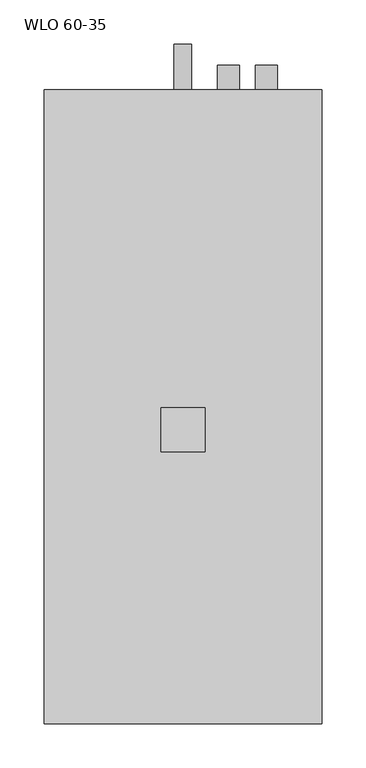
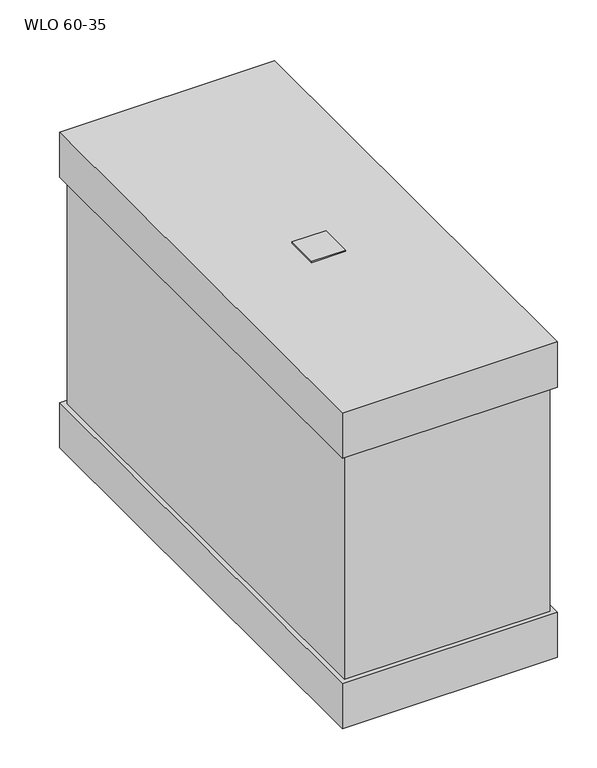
"""IFC4 building model written with IfcOpenShell, lengths in millimetres: proxy geometry, KORF_Воздухоохладитель_Водяной_WLO_Правый : WLO 60-35."""

from ifc_helpers import new_model, si_unit, point, frame, frame_2d, origin, place, context, project, spatial, polyline, circle_curve, trimmed, segment, composite_curve, outline, extrude, faceted_brep, source, transform, mapped, element, save


def wlo_60_35_79592b4e(model_context):
    return source(origin(), model_context, "Body", "SolidModel", [
        extrude(outline(polyline([(133.0, -25.0), (133.0, 25.0), (183.0, 25.0), (183.0, -25.0), (133.0, -25.0)])), frame((0.0, 0.0, 245.0), z_axis=(0.0, 0.0, 1.0), x_axis=(1.0, 0.0, 0.0)), (0.0, 0.0, 1.0), 2.0),
        faceted_brep([(316.0, -334.0, 245.0), (316.0, -334.0, 175.0), (316.0, 386.0, 175.0), (316.0, 386.0, 245.0), (316.0, -334.0, -175.0), (316.0, -334.0, -245.0), (316.0, 386.0, -245.0), (316.0, 386.0, -175.0), (0.0, -334.0, 245.0), (0.0, 386.0, 245.0), (0.0, 386.0, 175.0), (0.0, -334.0, 175.0), (0.0, -334.0, -175.0), (0.0, 386.0, -175.0), (0.0, 386.0, -245.0), (0.0, -334.0, -245.0), (7.0, -327.0, 175.0), (309.0, -327.0, 175.0), (309.0, -300.0, 175.0), (309.0, 300.0, 175.0), (309.0, 379.0, 175.0), (7.0, 379.0, 175.0), (7.0, 300.0, 175.0), (7.0, -300.0, 175.0), (309.0, -327.0, -175.0), (7.0, -327.0, -175.0), (7.0, -300.0, -175.0), (7.0, 300.0, -175.0), (7.0, 379.0, -175.0), (309.0, 379.0, -175.0), (309.0, 300.0, -175.0), (309.0, -300.0, -175.0)], [[[0, 1, 2, 3]], [[4, 5, 6, 7]], [[8, 9, 10, 11]], [[12, 13, 14, 15]], [[1, 0, 8, 11]], [[2, 1, 11, 10], [16, 17, 18, 19, 20, 21, 22, 23]], [[3, 2, 10, 9]], [[0, 3, 9, 8]], [[5, 4, 12, 15]], [[6, 5, 15, 14]], [[7, 6, 14, 13]], [[4, 7, 13, 12], [24, 25, 26, 27, 28, 29, 30, 31]], [[17, 24, 31, 30, 29, 20, 19, 18]], [[21, 28, 27, 26, 25, 16, 23, 22]], [[24, 17, 16, 25]], [[20, 29, 28, 21]]]),
        extrude(outline(composite_curve([segment(trimmed(circle_curve(frame_2d((50.0, 253.0)), 12.5), [point((50.0, 240.5))], [point((50.0, 265.5))], False, "CARTESIAN"), True, "CONTINUOUS"), segment(trimmed(circle_curve(frame_2d((50.0, 253.0)), 12.5), [point((50.0, 265.5))], [point((50.0, 240.5))], False, "CARTESIAN"), True, "CONTINUOUS")], self_intersect=False)), frame((0.0, 379.0, 0.0), z_axis=(0.0, 1.0, 0.0), x_axis=(0.0, 0.0, 1.0)), (0.0, 0.0, 1.0), 35.0),
        extrude(outline(composite_curve([segment(trimmed(circle_curve(frame_2d((-50.0, 210.0)), 12.5), [point((-50.0, 197.5))], [point((-50.0, 222.5))], False, "CARTESIAN"), True, "CONTINUOUS"), segment(trimmed(circle_curve(frame_2d((-50.0, 210.0)), 12.5), [point((-50.0, 222.5))], [point((-50.0, 197.5))], False, "CARTESIAN"), True, "CONTINUOUS")], self_intersect=False)), frame((0.0, 379.0, 0.0), z_axis=(0.0, 1.0, 0.0), x_axis=(0.0, 0.0, 1.0)), (0.0, 0.0, 1.0), 35.0),
        extrude(outline(composite_curve([segment(trimmed(circle_curve(frame_2d((-227.0, 158.0)), 10.0), [point((-227.0, 148.0))], [point((-227.0, 168.0))], False, "CARTESIAN"), True, "CONTINUOUS"), segment(trimmed(circle_curve(frame_2d((-227.0, 158.0)), 10.0), [point((-227.0, 168.0))], [point((-227.0, 148.0))], False, "CARTESIAN"), True, "CONTINUOUS")], self_intersect=False)), frame((0.0, 386.0, 0.0), z_axis=(0.0, 1.0, 0.0), x_axis=(0.0, 0.0, 1.0)), (0.0, 0.0, 1.0), 52.0),
    ])


if __name__ == "__main__":
    model = new_model("IFC4")
    model_context = context("Model", 3, world=origin())
    ifc_project = project(units=[si_unit("LENGTHUNIT", "METRE", prefix="MILLI")], contexts=[model_context])
    site = spatial("IfcSite", under=ifc_project)
    building = spatial("IfcBuilding", under=site)
    placement = place(None, origin())
    wlo_60_35_shape = wlo_60_35_79592b4e(model_context)
    element("IfcBuildingElementProxy", 1, Name="KORF_Воздухоохладитель_Водяной_WLO_Правый : WLO 60-35", ObjectType="KORF_Воздухоохладитель_Водяной_WLO_Правый : WLO 60-35", at=placement, inside=building, context=model_context, shape_type="MappedRepresentation", body=[
        mapped(wlo_60_35_shape, transform((0.0, 0.0, 0.0), x_axis=(1.0, 0.0, 0.0), y_axis=(0.0, 1.0, 0.0), z_axis=(0.0, 0.0, 1.0))),
    ])
    save(model, "model.ifc")
